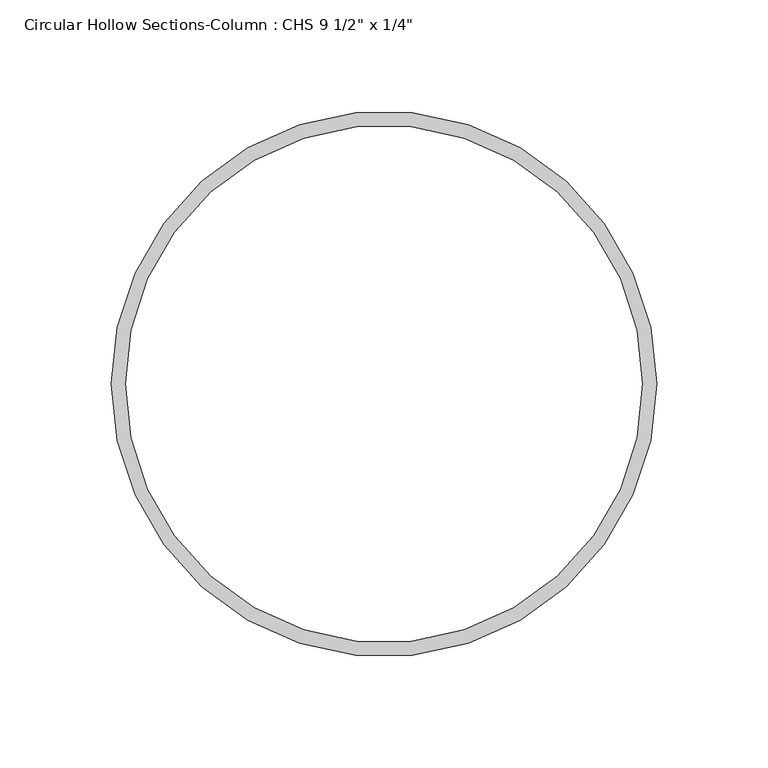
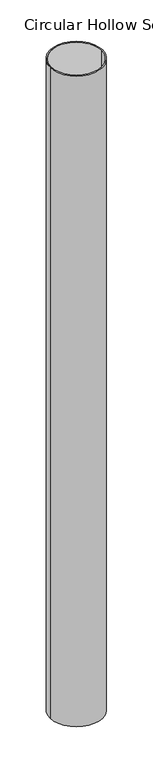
"""IFC4 building model written with IfcOpenShell, lengths in millimetres: column geometry."""

from ifc_helpers import new_model, si_unit, point, frame, origin, origin_2d, place, context, project, spatial, circle_curve, trimmed, segment, composite_curve, outline, extrude, source, transform, mapped, element, save


def column_55d45f16(model_context):
    return source(origin(), model_context, "Body", "SweptSolid", [
        extrude(outline(composite_curve([segment(trimmed(circle_curve(origin_2d(), 122.25), [point((-122.25, 0.0))], [point((122.25, 0.0))], False, "CARTESIAN"), True, "CONTINUOUS"), segment(trimmed(circle_curve(origin_2d(), 122.25), [point((122.25, 0.0))], [point((-122.25, 0.0))], False, "CARTESIAN"), True, "CONTINUOUS")], self_intersect=False), holes=[composite_curve([segment(trimmed(circle_curve(origin_2d(), 115.95), [point((-115.95, 0.0))], [point((115.95, 0.0))], True, "CARTESIAN"), True, "CONTINUOUS"), segment(trimmed(circle_curve(origin_2d(), 115.95), [point((115.95, 0.0))], [point((-115.95, 0.0))], True, "CARTESIAN"), True, "CONTINUOUS")], self_intersect=False)]), frame((0.0, 0.0, 8495.0), z_axis=(0.0, 0.0, 1.0), x_axis=(1.0, 0.0, 0.0)), (0.0, 0.0, 1.0), 3205.0),
    ])


if __name__ == "__main__":
    model = new_model("IFC4")
    model_context = context("Model", 3, world=origin())
    ifc_project = project(units=[si_unit("LENGTHUNIT", "METRE", prefix="MILLI")], contexts=[model_context])
    site = spatial("IfcSite", under=ifc_project)
    building = spatial("IfcBuilding", under=site)
    placement = place(None, origin())
    column_shape = column_55d45f16(model_context)
    element("IfcColumn", 1, ObjectType="Circular Hollow Sections-Column : CHS 9 1/2\" x 1/4\"", at=placement, inside=building, context=model_context, shape_type="MappedRepresentation", body=[
        mapped(column_shape, transform((0.0, 0.0, 0.0), x_axis=(1.0, 0.0, 0.0), y_axis=(0.0, 1.0, 0.0), z_axis=(0.0, 0.0, 1.0))),
    ])
    save(model, "model.ifc")
